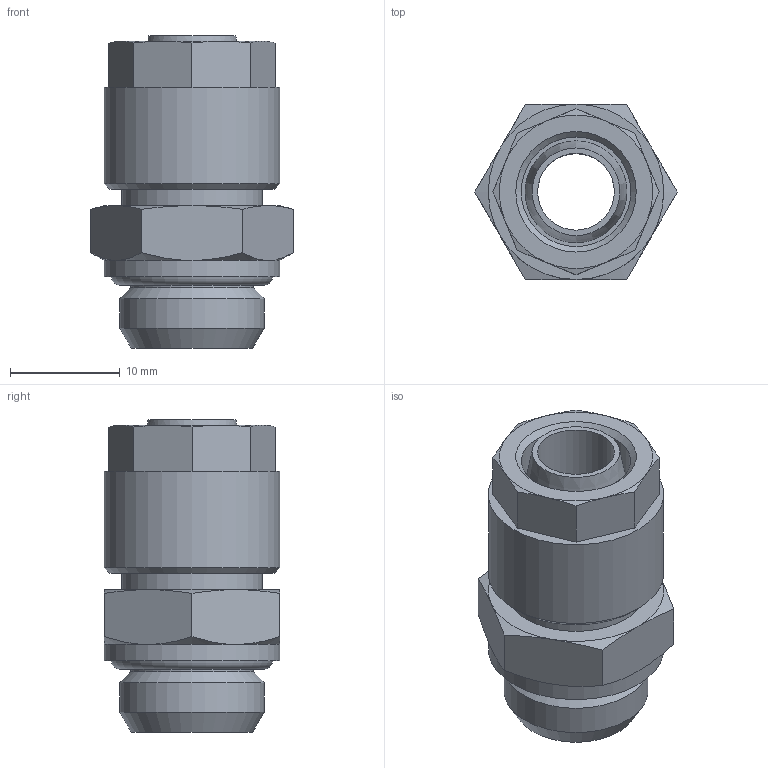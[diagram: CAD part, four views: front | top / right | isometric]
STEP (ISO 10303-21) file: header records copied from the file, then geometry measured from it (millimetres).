
FILE_DESCRIPTION(/* description */ (''),/* implementation_level */ '2;1');
FILE_NAME(/* name */ '10216_301Z_108_14_14.09.15',/* time_stamp */ '2015-09-14T10:22:55+02:00',/* author */ (''),/* organization */ (''),/* preprocessor_version */ 'ST-DEVELOPER v14',/* originating_system */ 'HiCAD 2013 1802.4 Build 509',/* authorisation */ '');
FILE_SCHEMA (('AUTOMOTIVE_DESIGN { 1 0 10303 214 1 1 1 1 }'));
Length unit declared in the file: millimetre
Products named in the file (4): Root; R10216; OR 11.11X1.78; 17007
Assembly tree (3 placements, depth 2):
  Root
    R10216
    OR 11.11X1.78
    17007
Bounding box: 18.48 x 16 x 28.5 mm (x, y, z)
Volume: 3622.7 mm3; surface area: 3817.4 mm2
Topology: 3 solids, 3 shells, 71 faces, 151 edges, 91 vertices
Faces by surface type: cone 32, plane 24, cylinder 11, torus 4
Full cylindrical faces by diameter (mm): 7 x1, 8.1 x1, 8.4 x1, 10 x1, 11.2 x1, 12.773 x1, 12.8 x1, 13.157 x1, 14 x1, 16 x2
Entity records: 2969 total; most frequent: DIRECTION 364, CARTESIAN_POINT 276, PRESENTATION_STYLE_ASSIGNMENT 235, COLOUR_RGB 234, DRAUGHTING_PRE_DEFINED_CURVE_FONT 232, CURVE_STYLE 232, OVER_RIDING_STYLED_ITEM 232, ORIENTED_EDGE 232
